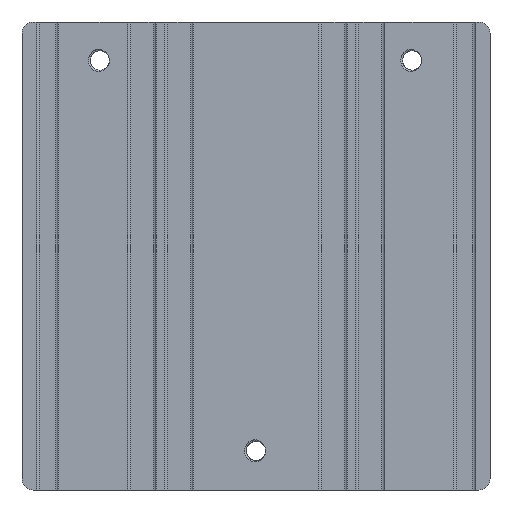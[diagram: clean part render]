
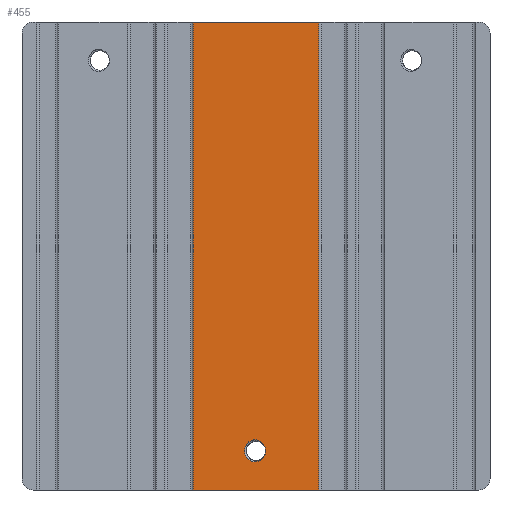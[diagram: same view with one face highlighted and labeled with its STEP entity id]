
A CAD part, front view. The second image highlights one B-rep face of the part: STEP entity #455.
In plain terms, the highlighted planar face has unit normal (0, -1, 0).
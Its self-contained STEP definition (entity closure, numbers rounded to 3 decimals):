
#178=B_SPLINE_CURVE_WITH_KNOTS('',3,(#11676,#11677,#11678,#11679,#11680,
#11681,#11682,#11683,#11684,#11685,#11686,#11687,#11688,#11689,#11690,#11691,
#11692,#11693,#11694,#11695,#11696,#11697,#11698,#11699,#11700,#11701,#11702),
 .UNSPECIFIED.,.F.,.F.,(4,2,2,2,2,1,2,2,2,2,2,2,2,4),(0.,0.062,
0.125,0.25,0.312,0.375,
0.437,0.5,0.625,0.687,
0.75,0.875,0.937,1.),.UNSPECIFIED.);
#179=B_SPLINE_CURVE_WITH_KNOTS('',3,(#11706,#11707,#11708,#11709,#11710,
#11711,#11712,#11713,#11714,#11715,#11716,#11717,#11718,#11719,#11720,#11721,
#11722,#11723,#11724,#11725,#11726,#11727,#11728,#11729,#11730,#11731,#11732,
#11733),.UNSPECIFIED.,.F.,.F.,(4,2,2,2,2,2,2,2,2,2,2,2,2,4),(0.,0.125,
0.187,0.25,0.375,0.437,
0.469,0.5,0.625,0.687,0.75,
0.875,0.937,1.),.UNSPECIFIED.);
#263=CIRCLE('',#8207,1.7);
#264=CIRCLE('',#8208,2.);
#265=CIRCLE('',#8209,1.7);
#383=FACE_BOUND('',#1569,.T.);
#384=FACE_BOUND('',#1570,.T.);
#455=ADVANCED_FACE('',(#383,#384),#858,.F.);
#858=PLANE('',#8210);
#1569=EDGE_LOOP('',(#2483,#2484,#2485,#2486,#2487));
#1570=EDGE_LOOP('',(#2488,#2489,#2490,#2491));
#2483=ORIENTED_EDGE('',*,*,#5577,.T.);
#2484=ORIENTED_EDGE('',*,*,#5578,.T.);
#2485=ORIENTED_EDGE('',*,*,#5579,.T.);
#2486=ORIENTED_EDGE('',*,*,#5580,.T.);
#2487=ORIENTED_EDGE('',*,*,#5581,.T.);
#2488=ORIENTED_EDGE('',*,*,#5582,.T.);
#2489=ORIENTED_EDGE('',*,*,#5583,.T.);
#2490=ORIENTED_EDGE('',*,*,#5584,.F.);
#2491=ORIENTED_EDGE('',*,*,#5585,.F.);
#4799=VERTEX_POINT('',#11674);
#4800=VERTEX_POINT('',#11675);
#4801=VERTEX_POINT('',#11703);
#4802=VERTEX_POINT('',#11705);
#4803=VERTEX_POINT('',#11734);
#4804=VERTEX_POINT('',#11737);
#4805=VERTEX_POINT('',#11738);
#4806=VERTEX_POINT('',#11740);
#4807=VERTEX_POINT('',#11742);
#5577=EDGE_CURVE('',#4799,#4800,#263,.T.);
#5578=EDGE_CURVE('',#4800,#4801,#178,.T.);
#5579=EDGE_CURVE('',#4801,#4802,#264,.T.);
#5580=EDGE_CURVE('',#4802,#4803,#179,.T.);
#5581=EDGE_CURVE('',#4803,#4799,#265,.T.);
#5582=EDGE_CURVE('',#4804,#4805,#6727,.T.);
#5583=EDGE_CURVE('',#4805,#4806,#6728,.T.);
#5584=EDGE_CURVE('',#4807,#4806,#6729,.T.);
#5585=EDGE_CURVE('',#4804,#4807,#6730,.T.);
#6727=LINE('',#11736,#7695);
#6728=LINE('',#11739,#7696);
#6729=LINE('',#11741,#7697);
#6730=LINE('',#11743,#7698);
#7695=VECTOR('',#9202,1.);
#7696=VECTOR('',#9203,1.);
#7697=VECTOR('',#9204,1.);
#7698=VECTOR('',#9205,1.);
#8207=AXIS2_PLACEMENT_3D('',#11673,#9196,#9197);
#8208=AXIS2_PLACEMENT_3D('',#11704,#9198,#9199);
#8209=AXIS2_PLACEMENT_3D('',#11735,#9200,#9201);
#8210=AXIS2_PLACEMENT_3D('',#11744,#9206,#9207);
#9196=DIRECTION('',(0.,1.,0.));
#9197=DIRECTION('',(0.,0.,1.));
#9198=DIRECTION('',(0.,1.,0.));
#9199=DIRECTION('',(0.,0.,1.));
#9200=DIRECTION('',(0.,1.,0.));
#9201=DIRECTION('',(0.,0.,1.));
#9202=DIRECTION('',(-1.,0.,0.));
#9203=DIRECTION('',(0.,0.,-1.));
#9204=DIRECTION('',(-1.,0.,0.));
#9205=DIRECTION('',(0.,0.,-1.));
#9206=DIRECTION('',(0.,1.,0.));
#9207=DIRECTION('',(1.,0.,0.));
#11673=CARTESIAN_POINT('',(0.,-20.9,-37.5));
#11674=CARTESIAN_POINT('',(1.7,-20.9,-37.5));
#11675=CARTESIAN_POINT('',(1.315,-20.9,-38.578));
#11676=CARTESIAN_POINT('',(1.315,-20.9,-38.578));
#11677=CARTESIAN_POINT('',(1.282,-20.9,-38.628));
#11678=CARTESIAN_POINT('',(1.247,-20.9,-38.677));
#11679=CARTESIAN_POINT('',(1.171,-20.9,-38.772));
#11680=CARTESIAN_POINT('',(1.13,-20.9,-38.817));
#11681=CARTESIAN_POINT('',(1.002,-20.9,-38.944));
#11682=CARTESIAN_POINT('',(0.908,-20.9,-39.019));
#11683=CARTESIAN_POINT('',(0.755,-20.9,-39.118));
#11684=CARTESIAN_POINT('',(0.703,-20.9,-39.149));
#11685=CARTESIAN_POINT('',(0.596,-20.9,-39.204));
#11686=CARTESIAN_POINT('',(0.487,-20.9,-39.254));
#11687=CARTESIAN_POINT('',(0.373,-20.9,-39.293));
#11688=CARTESIAN_POINT('',(0.256,-20.9,-39.327));
#11689=CARTESIAN_POINT('',(0.197,-20.9,-39.341));
#11690=CARTESIAN_POINT('',(0.019,-20.9,-39.373));
#11691=CARTESIAN_POINT('',(-0.1,-20.9,-39.383));
#11692=CARTESIAN_POINT('',(-0.281,-20.9,-39.379));
#11693=CARTESIAN_POINT('',(-0.341,-20.9,-39.375));
#11694=CARTESIAN_POINT('',(-0.462,-20.9,-39.361));
#11695=CARTESIAN_POINT('',(-0.521,-20.9,-39.351));
#11696=CARTESIAN_POINT('',(-0.698,-20.9,-39.314));
#11697=CARTESIAN_POINT('',(-0.813,-20.9,-39.278));
#11698=CARTESIAN_POINT('',(-0.981,-20.9,-39.209));
#11699=CARTESIAN_POINT('',(-1.036,-20.9,-39.183));
#11700=CARTESIAN_POINT('',(-1.143,-20.9,-39.127));
#11701=CARTESIAN_POINT('',(-1.195,-20.9,-39.097));
#11702=CARTESIAN_POINT('',(-1.246,-20.9,-39.064));
#11703=CARTESIAN_POINT('',(-1.246,-20.9,-39.064));
#11704=CARTESIAN_POINT('',(0.,-20.9,-37.5));
#11705=CARTESIAN_POINT('',(-1.246,-20.9,-35.936));
#11706=CARTESIAN_POINT('',(-1.246,-20.9,-35.936));
#11707=CARTESIAN_POINT('',(-1.144,-20.9,-35.87));
#11708=CARTESIAN_POINT('',(-1.038,-20.9,-35.815));
#11709=CARTESIAN_POINT('',(-0.871,-20.9,-35.746));
#11710=CARTESIAN_POINT('',(-0.815,-20.9,-35.725));
#11711=CARTESIAN_POINT('',(-0.699,-20.9,-35.689));
#11712=CARTESIAN_POINT('',(-0.64,-20.9,-35.674));
#11713=CARTESIAN_POINT('',(-0.463,-20.9,-35.636));
#11714=CARTESIAN_POINT('',(-0.344,-20.9,-35.622));
#11715=CARTESIAN_POINT('',(-0.164,-20.9,-35.618));
#11716=CARTESIAN_POINT('',(-0.103,-20.9,-35.62));
#11717=CARTESIAN_POINT('',(-0.013,-20.9,-35.627));
#11718=CARTESIAN_POINT('',(0.018,-20.9,-35.63));
#11719=CARTESIAN_POINT('',(0.078,-20.9,-35.638));
#11720=CARTESIAN_POINT('',(0.108,-20.9,-35.643));
#11721=CARTESIAN_POINT('',(0.256,-20.9,-35.67));
#11722=CARTESIAN_POINT('',(0.371,-20.9,-35.703));
#11723=CARTESIAN_POINT('',(0.539,-20.9,-35.77));
#11724=CARTESIAN_POINT('',(0.595,-20.9,-35.796));
#11725=CARTESIAN_POINT('',(0.703,-20.9,-35.851));
#11726=CARTESIAN_POINT('',(0.755,-20.9,-35.882));
#11727=CARTESIAN_POINT('',(0.906,-20.9,-35.98));
#11728=CARTESIAN_POINT('',(1.,-20.9,-36.055));
#11729=CARTESIAN_POINT('',(1.13,-20.9,-36.183));
#11730=CARTESIAN_POINT('',(1.17,-20.9,-36.228));
#11731=CARTESIAN_POINT('',(1.246,-20.9,-36.322));
#11732=CARTESIAN_POINT('',(1.281,-20.9,-36.37));
#11733=CARTESIAN_POINT('',(1.314,-20.9,-36.421));
#11734=CARTESIAN_POINT('',(1.314,-20.9,-36.421));
#11735=CARTESIAN_POINT('',(0.,-20.9,-37.5));
#11736=CARTESIAN_POINT('',(-41.4,-20.9,37.2));
#11737=CARTESIAN_POINT('',(10.9,-20.9,37.2));
#11738=CARTESIAN_POINT('',(-10.9,-20.9,37.2));
#11739=CARTESIAN_POINT('',(-10.9,-20.9,37.2));
#11740=CARTESIAN_POINT('',(-10.9,-20.9,-44.3));
#11741=CARTESIAN_POINT('',(-41.4,-20.9,-44.3));
#11742=CARTESIAN_POINT('',(10.9,-20.9,-44.3));
#11743=CARTESIAN_POINT('',(10.9,-20.9,37.2));
#11744=CARTESIAN_POINT('',(-41.4,-20.9,37.85));
